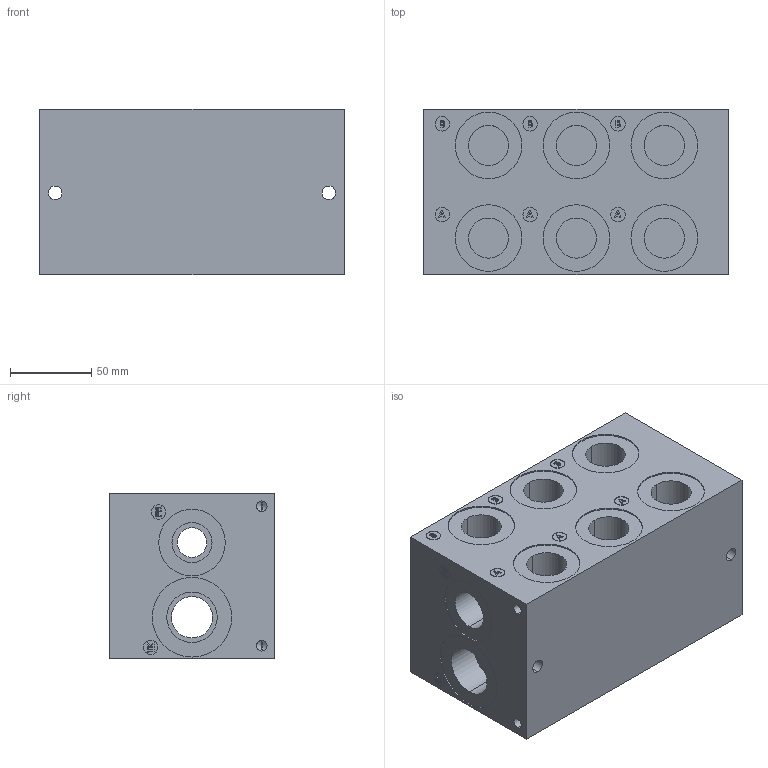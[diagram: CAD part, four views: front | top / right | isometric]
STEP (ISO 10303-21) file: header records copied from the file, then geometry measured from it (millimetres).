
FILE_DESCRIPTION (( 'STEP AP203' ), '1' );
FILE_NAME ('BMR-AHP03S2-03-1_Z.STEP', '2015-01-06T15:22:39', ( '' ), ( '' ), 'SwSTEP 2.0', 'SolidWorks 2014', '' );
FILE_SCHEMA (( 'CONFIG_CONTROL_DESIGN' ));
Length unit declared in the file: inch
Products named in the file (1): BMR-AHP03S2-03-1_Z
Bounding box: 187.45 x 101.6 x 101.6 mm (x, y, z)
Volume: 1687358.9 mm3; surface area: 143094.4 mm2
Topology: 1 solids, 1 shells, 478 faces, 1153 edges, 717 vertices
Faces by surface type: plane 211, cylinder 158, cone 62, bspline 47
Entity records: 16236 total; most frequent: CARTESIAN_POINT 5334, ORIENTED_EDGE 2182, DIRECTION 2177, EDGE_CURVE 1091, AXIS2_PLACEMENT_3D 748, VERTEX_POINT 717, VECTOR 681, LINE 681
